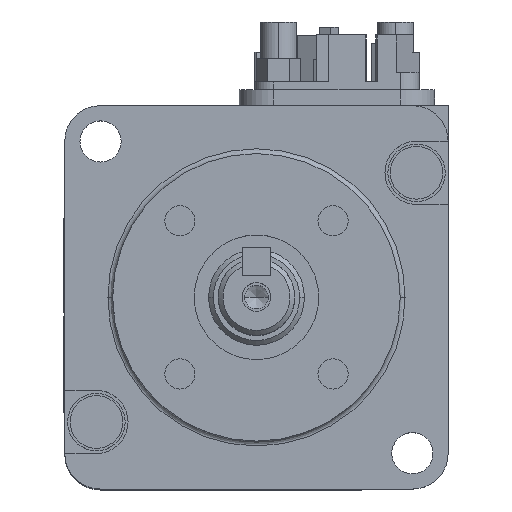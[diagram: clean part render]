
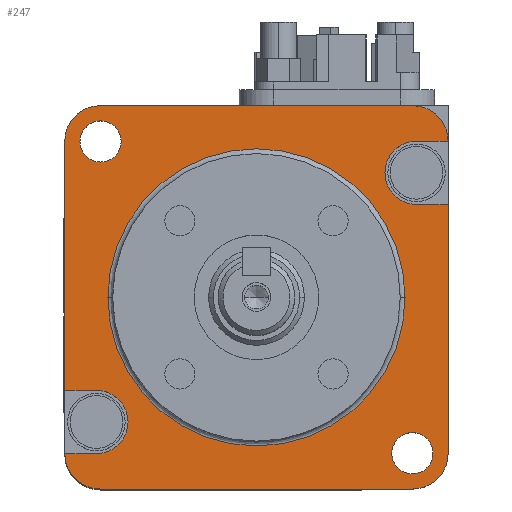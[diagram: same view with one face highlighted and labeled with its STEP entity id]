
A CAD part, top view. The second image highlights one B-rep face of the part: STEP entity #247.
In plain terms, the highlighted planar face has unit normal (0, 0, 1).
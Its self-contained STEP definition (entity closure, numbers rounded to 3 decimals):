
#247=ADVANCED_FACE('',(#1835,#1836,#1837,#1838),#1834,.T.);
#1834=PLANE('',#4809);
#1835=FACE_OUTER_BOUND('',#4810,.T.);
#1836=FACE_BOUND('',#4811,.T.);
#1837=FACE_BOUND('',#4812,.T.);
#1838=FACE_BOUND('',#4813,.T.);
#4806=CARTESIAN_POINT('',(-24.,-24.,0.));
#4807=DIRECTION('',(0.,0.,1.));
#4808=DIRECTION('',(1.,0.,0.));
#4809=AXIS2_PLACEMENT_3D('',#4806,#4807,#4808);
#4810=EDGE_LOOP('',(#6683,#6684,#6685,#6686,#6687,#6688,#6689,#6690,#6691,#6692,#6693,#6694,#6695,#6696));
#4811=EDGE_LOOP('',(#6697,#6698));
#4812=EDGE_LOOP('',(#6699,#6700));
#4813=EDGE_LOOP('',(#6701,#6702));
#6683=ORIENTED_EDGE('',*,*,#8373,.F.);
#6684=ORIENTED_EDGE('',*,*,#8356,.T.);
#6685=ORIENTED_EDGE('',*,*,#8385,.T.);
#6686=ORIENTED_EDGE('',*,*,#8386,.T.);
#6687=ORIENTED_EDGE('',*,*,#8387,.T.);
#6688=ORIENTED_EDGE('',*,*,#8379,.T.);
#6689=ORIENTED_EDGE('',*,*,#8024,.F.);
#6690=ORIENTED_EDGE('',*,*,#8381,.F.);
#6691=ORIENTED_EDGE('',*,*,#8388,.T.);
#6692=ORIENTED_EDGE('',*,*,#8389,.T.);
#6693=ORIENTED_EDGE('',*,*,#8390,.T.);
#6694=ORIENTED_EDGE('',*,*,#8391,.T.);
#6695=ORIENTED_EDGE('',*,*,#8371,.T.);
#6696=ORIENTED_EDGE('',*,*,#8362,.F.);
#6697=ORIENTED_EDGE('',*,*,#8392,.T.);
#6698=ORIENTED_EDGE('',*,*,#8393,.T.);
#6699=ORIENTED_EDGE('',*,*,#8394,.T.);
#6700=ORIENTED_EDGE('',*,*,#8395,.T.);
#6701=ORIENTED_EDGE('',*,*,#8396,.T.);
#6702=ORIENTED_EDGE('',*,*,#8397,.T.);
#8024=EDGE_CURVE('',#9375,#9382,#9383,.T.);
#8356=EDGE_CURVE('',#11617,#11610,#11618,.T.);
#8362=EDGE_CURVE('',#11657,#11658,#11659,.T.);
#8371=EDGE_CURVE('',#11718,#11658,#11719,.T.);
#8373=EDGE_CURVE('',#11617,#11657,#11731,.T.);
#8379=EDGE_CURVE('',#11771,#9382,#11772,.T.);
#8381=EDGE_CURVE('',#11784,#9375,#11785,.T.);
#8385=EDGE_CURVE('',#11610,#11811,#11812,.T.);
#8386=EDGE_CURVE('',#11811,#11818,#11819,.T.);
#8387=EDGE_CURVE('',#11818,#11771,#11825,.T.);
#8388=EDGE_CURVE('',#11784,#11831,#11832,.T.);
#8389=EDGE_CURVE('',#11831,#11838,#11839,.T.);
#8390=EDGE_CURVE('',#11838,#11845,#11846,.T.);
#8391=EDGE_CURVE('',#11845,#11718,#11852,.T.);
#8392=EDGE_CURVE('',#11858,#11859,#11860,.T.);
#8393=EDGE_CURVE('',#11859,#11858,#11866,.T.);
#8394=EDGE_CURVE('',#11872,#11873,#11874,.T.);
#8395=EDGE_CURVE('',#11873,#11872,#11880,.T.);
#8396=EDGE_CURVE('',#11886,#11887,#11888,.T.);
#8397=EDGE_CURVE('',#11887,#11886,#11894,.T.);
#9375=VERTEX_POINT('',#15584);
#9382=VERTEX_POINT('',#15588);
#9383=CIRCLE('',#15592,3.3);
#11610=VERTEX_POINT('',#16880);
#11617=VERTEX_POINT('',#16884);
#11618=CIRCLE('',#16888,3.7);
#11657=VERTEX_POINT('',#16907);
#11658=VERTEX_POINT('',#16908);
#11659=CIRCLE('',#16912,3.3);
#11718=VERTEX_POINT('',#16945);
#11719=LINE('',#16946,#16947);
#11731=LINE('',#16952,#16953);
#11771=VERTEX_POINT('',#16976);
#11772=LINE('',#16977,#16978);
#11784=VERTEX_POINT('',#16983);
#11785=LINE('',#16984,#16985);
#11811=VERTEX_POINT('',#17000);
#11812=LINE('',#17001,#17002);
#11818=VERTEX_POINT('',#17004);
#11819=CIRCLE('',#17008,3.7);
#11825=LINE('',#17009,#17010);
#11831=VERTEX_POINT('',#17012);
#11832=CIRCLE('',#17016,3.7);
#11838=VERTEX_POINT('',#17017);
#11839=LINE('',#17018,#17019);
#11845=VERTEX_POINT('',#17021);
#11846=CIRCLE('',#17025,3.7);
#11852=LINE('',#17026,#17027);
#11858=VERTEX_POINT('',#17029);
#11859=VERTEX_POINT('',#17030);
#11860=CIRCLE('',#17034,15.5);
#11866=CIRCLE('',#17038,15.5);
#11872=VERTEX_POINT('',#17039);
#11873=VERTEX_POINT('',#17040);
#11874=CIRCLE('',#17044,2.15);
#11880=CIRCLE('',#17048,2.15);
#11886=VERTEX_POINT('',#17049);
#11887=VERTEX_POINT('',#17050);
#11888=CIRCLE('',#17054,2.15);
#11894=CIRCLE('',#17058,2.15);
#15584=CARTESIAN_POINT('',(-16.7,-16.3,0.));
#15588=CARTESIAN_POINT('',(-16.7,-9.7,0.));
#15589=CARTESIAN_POINT('',(-16.7,-13.,0.));
#15590=DIRECTION('',(0.,0.,1.));
#15591=DIRECTION('',(-1.,0.,0.));
#15592=AXIS2_PLACEMENT_3D('',#15589,#15590,#15591);
#16880=CARTESIAN_POINT('',(16.3,20.,0.));
#16884=CARTESIAN_POINT('',(20.,16.3,0.));
#16885=CARTESIAN_POINT('',(16.3,16.3,0.));
#16886=DIRECTION('',(0.,0.,1.));
#16887=DIRECTION('',(-1.,0.,0.));
#16888=AXIS2_PLACEMENT_3D('',#16885,#16886,#16887);
#16907=CARTESIAN_POINT('',(16.7,16.3,0.));
#16908=CARTESIAN_POINT('',(16.7,9.7,0.));
#16909=CARTESIAN_POINT('',(16.7,13.,0.));
#16910=DIRECTION('',(0.,0.,1.));
#16911=DIRECTION('',(0.,1.,0.));
#16912=AXIS2_PLACEMENT_3D('',#16909,#16910,#16911);
#16945=CARTESIAN_POINT('',(20.,9.7,0.));
#16946=CARTESIAN_POINT('',(20.,9.7,0.));
#16947=VECTOR('',#16948,3.3);
#16948=DIRECTION('',(-1.,0.,0.));
#16952=CARTESIAN_POINT('',(20.,16.3,0.));
#16953=VECTOR('',#16954,3.3);
#16954=DIRECTION('',(-1.,0.,0.));
#16976=CARTESIAN_POINT('',(-20.,-9.7,0.));
#16977=CARTESIAN_POINT('',(-20.,-9.7,0.));
#16978=VECTOR('',#16979,3.3);
#16979=DIRECTION('',(1.,0.,0.));
#16983=CARTESIAN_POINT('',(-20.,-16.3,0.));
#16984=CARTESIAN_POINT('',(-20.,-16.3,0.));
#16985=VECTOR('',#16986,3.3);
#16986=DIRECTION('',(1.,0.,0.));
#17000=CARTESIAN_POINT('',(-16.3,20.,0.));
#17001=CARTESIAN_POINT('',(16.3,20.,0.));
#17002=VECTOR('',#17003,32.6);
#17003=DIRECTION('',(-1.,0.,0.));
#17004=CARTESIAN_POINT('',(-20.,16.3,0.));
#17005=CARTESIAN_POINT('',(-16.3,16.3,0.));
#17006=DIRECTION('',(0.,0.,1.));
#17007=DIRECTION('',(0.,-1.,0.));
#17008=AXIS2_PLACEMENT_3D('',#17005,#17006,#17007);
#17009=CARTESIAN_POINT('',(-20.,16.3,0.));
#17010=VECTOR('',#17011,26.);
#17011=DIRECTION('',(0.,-1.,0.));
#17012=CARTESIAN_POINT('',(-16.3,-20.,0.));
#17013=CARTESIAN_POINT('',(-16.3,-16.3,0.));
#17014=DIRECTION('',(0.,0.,1.));
#17015=DIRECTION('',(1.,0.,0.));
#17016=AXIS2_PLACEMENT_3D('',#17013,#17014,#17015);
#17017=CARTESIAN_POINT('',(16.3,-20.,0.));
#17018=CARTESIAN_POINT('',(-16.3,-20.,0.));
#17019=VECTOR('',#17020,32.6);
#17020=DIRECTION('',(1.,0.,0.));
#17021=CARTESIAN_POINT('',(20.,-16.3,0.));
#17022=CARTESIAN_POINT('',(16.3,-16.3,0.));
#17023=DIRECTION('',(0.,0.,1.));
#17024=DIRECTION('',(0.,1.,0.));
#17025=AXIS2_PLACEMENT_3D('',#17022,#17023,#17024);
#17026=CARTESIAN_POINT('',(20.,-16.3,0.));
#17027=VECTOR('',#17028,26.);
#17028=DIRECTION('',(0.,1.,0.));
#17029=CARTESIAN_POINT('',(15.5,0.,0.));
#17030=CARTESIAN_POINT('',(-15.5,0.,0.));
#17031=CARTESIAN_POINT('',(0.,0.,0.));
#17032=DIRECTION('',(0.,0.,-1.));
#17033=DIRECTION('',(1.,0.,0.));
#17034=AXIS2_PLACEMENT_3D('',#17031,#17032,#17033);
#17035=CARTESIAN_POINT('',(0.,0.,0.));
#17036=DIRECTION('',(0.,0.,-1.));
#17037=DIRECTION('',(1.,0.,0.));
#17038=AXIS2_PLACEMENT_3D('',#17035,#17036,#17037);
#17039=CARTESIAN_POINT('',(18.413,-16.263,0.));
#17040=CARTESIAN_POINT('',(14.113,-16.263,0.));
#17041=CARTESIAN_POINT('',(16.263,-16.263,0.));
#17042=DIRECTION('',(0.,0.,-1.));
#17043=DIRECTION('',(1.,0.,0.));
#17044=AXIS2_PLACEMENT_3D('',#17041,#17042,#17043);
#17045=CARTESIAN_POINT('',(16.263,-16.263,0.));
#17046=DIRECTION('',(0.,0.,-1.));
#17047=DIRECTION('',(1.,0.,0.));
#17048=AXIS2_PLACEMENT_3D('',#17045,#17046,#17047);
#17049=CARTESIAN_POINT('',(-14.113,16.263,0.));
#17050=CARTESIAN_POINT('',(-18.413,16.263,0.));
#17051=CARTESIAN_POINT('',(-16.263,16.263,0.));
#17052=DIRECTION('',(0.,0.,-1.));
#17053=DIRECTION('',(1.,0.,0.));
#17054=AXIS2_PLACEMENT_3D('',#17051,#17052,#17053);
#17055=CARTESIAN_POINT('',(-16.263,16.263,0.));
#17056=DIRECTION('',(0.,0.,-1.));
#17057=DIRECTION('',(1.,0.,0.));
#17058=AXIS2_PLACEMENT_3D('',#17055,#17056,#17057);
